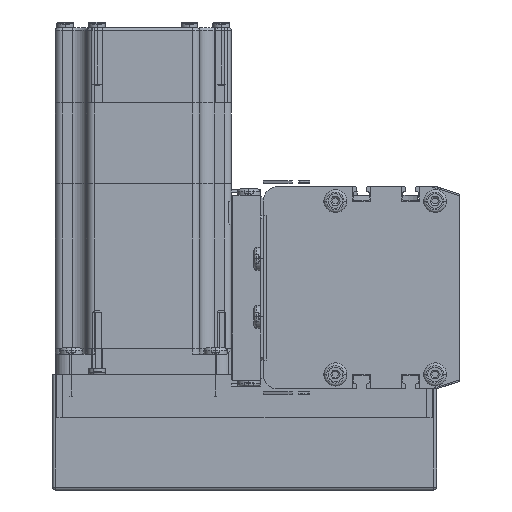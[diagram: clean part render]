
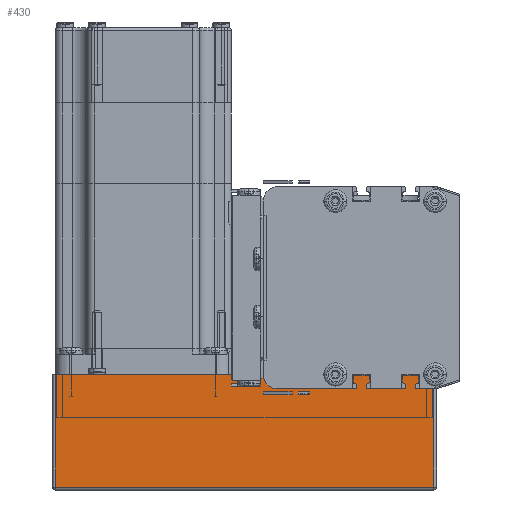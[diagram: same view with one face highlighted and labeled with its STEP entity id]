
A CAD part, left-side view. The second image highlights one B-rep face of the part: STEP entity #430.
In plain terms, the highlighted planar face has unit normal (-1, 0, 0) as drawn and (0, 1, 0) by its records, which use the part's own axes.
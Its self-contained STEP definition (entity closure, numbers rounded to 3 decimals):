
#236 = VERTEX_POINT ( 'NONE', #79752 ) ;
#290 = VERTEX_POINT ( 'NONE', #79865 ) ;
#295 = EDGE_CURVE ( 'NONE', #236, #290, #79930, .T. ) ;
#347 = ORIENTED_EDGE ( 'NONE', *, *, #295, .T. ) ;
#356 = ORIENTED_EDGE ( 'NONE', *, *, #438, .T. ) ;
#430 = ADVANCED_FACE ( 'NONE', ( #81305 ), #81304, .F. ) ;
#431 = VERTEX_POINT ( 'NONE', #81358 ) ;
#433 = EDGE_LOOP ( 'NONE', ( #435, #434, #347, #356 ) ) ;
#434 = ORIENTED_EDGE ( 'NONE', *, *, #437, .T. ) ;
#435 = ORIENTED_EDGE ( 'NONE', *, *, #439, .T. ) ;
#437 = EDGE_CURVE ( 'NONE', #431, #236, #81423, .T. ) ;
#438 = EDGE_CURVE ( 'NONE', #290, #440, #81399, .T. ) ;
#439 = EDGE_CURVE ( 'NONE', #440, #431, #81389, .T. ) ;
#440 = VERTEX_POINT ( 'NONE', #81387 ) ;
#79752 = CARTESIAN_POINT ( 'NONE',  ( 132., 62., 0. ) ) ;
#79865 = CARTESIAN_POINT ( 'NONE',  ( 1., 62., 0. ) ) ;
#79925 = DIRECTION ( 'NONE',  ( -1., 0., 0. ) ) ;
#79926 = VECTOR ( 'NONE', #79925, 1000. ) ;
#79928 = CARTESIAN_POINT ( 'NONE',  ( 0., 62., 0. ) ) ;
#79930 = LINE ( 'NONE', #79928, #79926 ) ;
#81304 = PLANE ( 'NONE',  #81326 ) ;
#81305 = FACE_OUTER_BOUND ( 'NONE', #433, .T. ) ;
#81306 = DIRECTION ( 'NONE',  ( 0., -1., 0. ) ) ;
#81326 = AXIS2_PLACEMENT_3D ( 'NONE', #81353, #81306, #81425 ) ;
#81353 = CARTESIAN_POINT ( 'NONE',  ( 0., 62., 40. ) ) ;
#81358 = CARTESIAN_POINT ( 'NONE',  ( 132., 62., 39. ) ) ;
#81381 = DIRECTION ( 'NONE',  ( 1., 0., 0. ) ) ;
#81382 = VECTOR ( 'NONE', #81381, 1000. ) ;
#81384 = CARTESIAN_POINT ( 'NONE',  ( 0., 62., 39. ) ) ;
#81387 = CARTESIAN_POINT ( 'NONE',  ( 1., 62., 39. ) ) ;
#81389 = LINE ( 'NONE', #81384, #81382 ) ;
#81392 = DIRECTION ( 'NONE',  ( 0., 0., 1. ) ) ;
#81393 = VECTOR ( 'NONE', #81392, 1000. ) ;
#81395 = CARTESIAN_POINT ( 'NONE',  ( 1., 62., 40. ) ) ;
#81399 = LINE ( 'NONE', #81395, #81393 ) ;
#81401 = VECTOR ( 'NONE', #81405, 1000. ) ;
#81405 = DIRECTION ( 'NONE',  ( 0., 0., -1. ) ) ;
#81407 = CARTESIAN_POINT ( 'NONE',  ( 132., 62., 40. ) ) ;
#81423 = LINE ( 'NONE', #81407, #81401 ) ;
#81425 = DIRECTION ( 'NONE',  ( 0., 0., -1. ) ) ;
